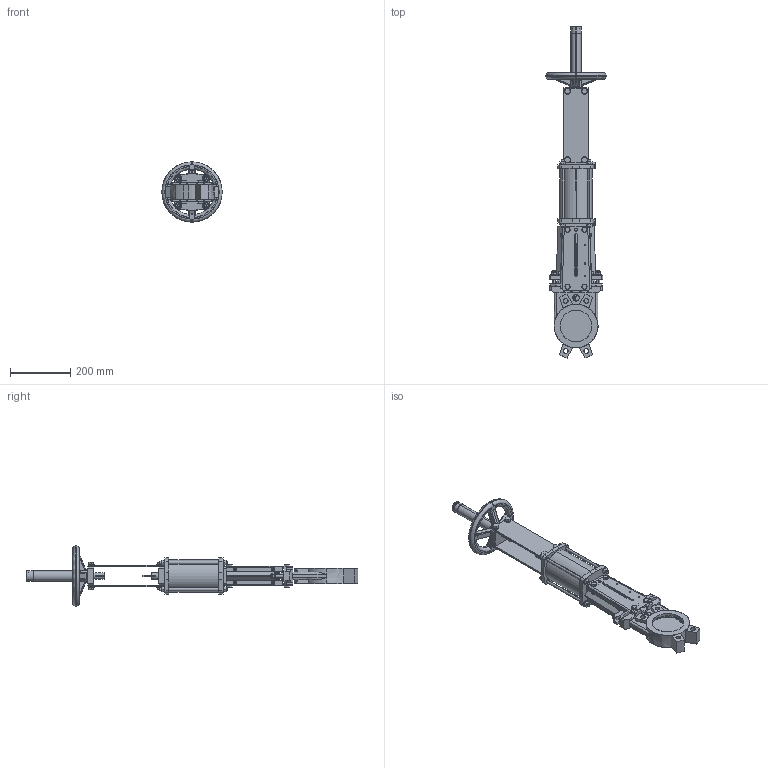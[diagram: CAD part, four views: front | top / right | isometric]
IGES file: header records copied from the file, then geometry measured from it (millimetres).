
Start section: SolidWorks IGES file using analytic representation for surfaces
Global section: file name: D:\part\3D Projects\VG-DOUBLE ACTING(DN50-450)\VG D DN100\VG D DN100.IGS; native system: SolidWorks 2009; preprocessor: SolidWorks 2009; author: zhixin.zheng; date: 100127.135047; units: millimetre
Bounding box: 200 x 1102.66 x 200 mm (x, y, z)
Surface area: 745306.6 mm2 (no closed solid volume)
Topology: 0 solids, 0 shells, 1341 faces, 15263 edges, 15259 vertices
Faces by surface type: bspline 823, revolution 518
